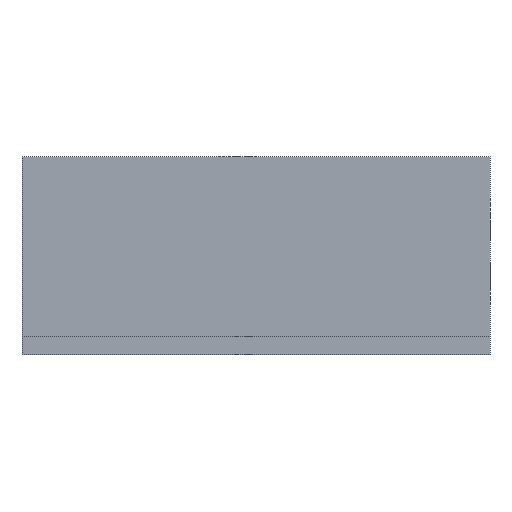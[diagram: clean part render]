
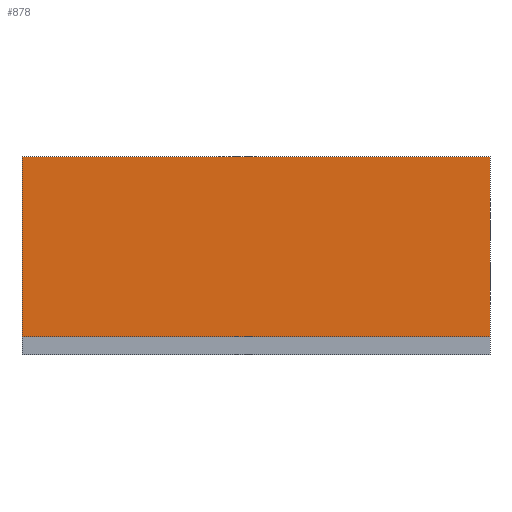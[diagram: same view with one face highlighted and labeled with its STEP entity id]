
A CAD part, front view. The second image highlights one B-rep face of the part: STEP entity #878.
In plain terms, the highlighted planar face has unit normal (0, -1, 0).
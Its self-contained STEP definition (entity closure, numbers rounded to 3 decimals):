
#24 = VERTEX_POINT('',#25);
#25 = CARTESIAN_POINT('',(-52.,0.,4.));
#32 = PLANE('',#33);
#33 = AXIS2_PLACEMENT_3D('',#34,#35,#36);
#34 = CARTESIAN_POINT('',(-52.,-40.,0.));
#35 = DIRECTION('',(1.,0.,0.));
#36 = DIRECTION('',(0.,0.,1.));
#44 = PLANE('',#45);
#45 = AXIS2_PLACEMENT_3D('',#46,#47,#48);
#46 = CARTESIAN_POINT('',(-52.,-40.,4.));
#47 = DIRECTION('',(0.,0.,1.));
#48 = DIRECTION('',(1.,0.,0.));
#141 = VERTEX_POINT('',#142);
#142 = CARTESIAN_POINT('',(-52.,0.,44.));
#156 = PLANE('',#157);
#157 = AXIS2_PLACEMENT_3D('',#158,#159,#160);
#158 = CARTESIAN_POINT('',(-52.,0.,44.));
#159 = DIRECTION('',(0.,0.,1.));
#160 = DIRECTION('',(1.,0.,0.));
#168 = EDGE_CURVE('',#24,#141,#169,.T.);
#169 = SURFACE_CURVE('',#170,(#174,#181),.PCURVE_S1.);
#170 = LINE('',#171,#172);
#171 = CARTESIAN_POINT('',(-52.,0.,0.));
#172 = VECTOR('',#173,1.);
#173 = DIRECTION('',(0.,0.,1.));
#174 = PCURVE('',#32,#175);
#175 = DEFINITIONAL_REPRESENTATION('',(#176),#180);
#176 = LINE('',#177,#178);
#177 = CARTESIAN_POINT('',(0.,-40.));
#178 = VECTOR('',#179,1.);
#179 = DIRECTION('',(1.,0.));
#180 = ( GEOMETRIC_REPRESENTATION_CONTEXT(2) 
PARAMETRIC_REPRESENTATION_CONTEXT() REPRESENTATION_CONTEXT('2D SPACE',''
  ) );
#181 = PCURVE('',#182,#187);
#182 = PLANE('',#183);
#183 = AXIS2_PLACEMENT_3D('',#184,#185,#186);
#184 = CARTESIAN_POINT('',(-52.,0.,0.));
#185 = DIRECTION('',(0.,1.,0.));
#186 = DIRECTION('',(0.,0.,1.));
#187 = DEFINITIONAL_REPRESENTATION('',(#188),#192);
#188 = LINE('',#189,#190);
#189 = CARTESIAN_POINT('',(0.,0.));
#190 = VECTOR('',#191,1.);
#191 = DIRECTION('',(1.,0.));
#192 = ( GEOMETRIC_REPRESENTATION_CONTEXT(2) 
PARAMETRIC_REPRESENTATION_CONTEXT() REPRESENTATION_CONTEXT('2D SPACE',''
  ) );
#222 = VERTEX_POINT('',#223);
#223 = CARTESIAN_POINT('',(52.,0.,4.));
#237 = PLANE('',#238);
#238 = AXIS2_PLACEMENT_3D('',#239,#240,#241);
#239 = CARTESIAN_POINT('',(52.,-40.,0.));
#240 = DIRECTION('',(1.,0.,0.));
#241 = DIRECTION('',(0.,0.,1.));
#249 = EDGE_CURVE('',#222,#24,#250,.T.);
#250 = SURFACE_CURVE('',#251,(#255,#261),.PCURVE_S1.);
#251 = LINE('',#252,#253);
#252 = CARTESIAN_POINT('',(-52.,0.,4.));
#253 = VECTOR('',#254,1.);
#254 = DIRECTION('',(-1.,0.,0.));
#255 = PCURVE('',#44,#256);
#256 = DEFINITIONAL_REPRESENTATION('',(#257),#260);
#257 = B_SPLINE_CURVE_WITH_KNOTS('',1,(#258,#259),.UNSPECIFIED.,.F.,.F.,
  (2,2),(-104.,0.),.PIECEWISE_BEZIER_KNOTS.);
#258 = CARTESIAN_POINT('',(104.,40.));
#259 = CARTESIAN_POINT('',(0.,40.));
#260 = ( GEOMETRIC_REPRESENTATION_CONTEXT(2) 
PARAMETRIC_REPRESENTATION_CONTEXT() REPRESENTATION_CONTEXT('2D SPACE',''
  ) );
#261 = PCURVE('',#182,#262);
#262 = DEFINITIONAL_REPRESENTATION('',(#263),#266);
#263 = B_SPLINE_CURVE_WITH_KNOTS('',1,(#264,#265),.UNSPECIFIED.,.F.,.F.,
  (2,2),(-104.,0.),.PIECEWISE_BEZIER_KNOTS.);
#264 = CARTESIAN_POINT('',(4.,104.));
#265 = CARTESIAN_POINT('',(4.,0.));
#266 = ( GEOMETRIC_REPRESENTATION_CONTEXT(2) 
PARAMETRIC_REPRESENTATION_CONTEXT() REPRESENTATION_CONTEXT('2D SPACE',''
  ) );
#735 = EDGE_CURVE('',#141,#736,#738,.T.);
#736 = VERTEX_POINT('',#737);
#737 = CARTESIAN_POINT('',(52.,0.,44.));
#738 = SURFACE_CURVE('',#739,(#743,#750),.PCURVE_S1.);
#739 = LINE('',#740,#741);
#740 = CARTESIAN_POINT('',(-52.,0.,44.));
#741 = VECTOR('',#742,1.);
#742 = DIRECTION('',(1.,0.,0.));
#743 = PCURVE('',#156,#744);
#744 = DEFINITIONAL_REPRESENTATION('',(#745),#749);
#745 = LINE('',#746,#747);
#746 = CARTESIAN_POINT('',(0.,0.));
#747 = VECTOR('',#748,1.);
#748 = DIRECTION('',(1.,0.));
#749 = ( GEOMETRIC_REPRESENTATION_CONTEXT(2) 
PARAMETRIC_REPRESENTATION_CONTEXT() REPRESENTATION_CONTEXT('2D SPACE',''
  ) );
#750 = PCURVE('',#182,#751);
#751 = DEFINITIONAL_REPRESENTATION('',(#752),#756);
#752 = LINE('',#753,#754);
#753 = CARTESIAN_POINT('',(44.,0.));
#754 = VECTOR('',#755,1.);
#755 = DIRECTION('',(0.,1.));
#756 = ( GEOMETRIC_REPRESENTATION_CONTEXT(2) 
PARAMETRIC_REPRESENTATION_CONTEXT() REPRESENTATION_CONTEXT('2D SPACE',''
  ) );
#878 = ADVANCED_FACE('',(#879),#182,.F.);
#879 = FACE_BOUND('',#880,.F.);
#880 = EDGE_LOOP('',(#881,#902,#903,#904));
#881 = ORIENTED_EDGE('',*,*,#882,.F.);
#882 = EDGE_CURVE('',#222,#736,#883,.T.);
#883 = SURFACE_CURVE('',#884,(#888,#895),.PCURVE_S1.);
#884 = LINE('',#885,#886);
#885 = CARTESIAN_POINT('',(52.,0.,0.));
#886 = VECTOR('',#887,1.);
#887 = DIRECTION('',(0.,0.,1.));
#888 = PCURVE('',#182,#889);
#889 = DEFINITIONAL_REPRESENTATION('',(#890),#894);
#890 = LINE('',#891,#892);
#891 = CARTESIAN_POINT('',(0.,104.));
#892 = VECTOR('',#893,1.);
#893 = DIRECTION('',(1.,0.));
#894 = ( GEOMETRIC_REPRESENTATION_CONTEXT(2) 
PARAMETRIC_REPRESENTATION_CONTEXT() REPRESENTATION_CONTEXT('2D SPACE',''
  ) );
#895 = PCURVE('',#237,#896);
#896 = DEFINITIONAL_REPRESENTATION('',(#897),#901);
#897 = LINE('',#898,#899);
#898 = CARTESIAN_POINT('',(0.,-40.));
#899 = VECTOR('',#900,1.);
#900 = DIRECTION('',(1.,0.));
#901 = ( GEOMETRIC_REPRESENTATION_CONTEXT(2) 
PARAMETRIC_REPRESENTATION_CONTEXT() REPRESENTATION_CONTEXT('2D SPACE',''
  ) );
#902 = ORIENTED_EDGE('',*,*,#249,.T.);
#903 = ORIENTED_EDGE('',*,*,#168,.T.);
#904 = ORIENTED_EDGE('',*,*,#735,.T.);
